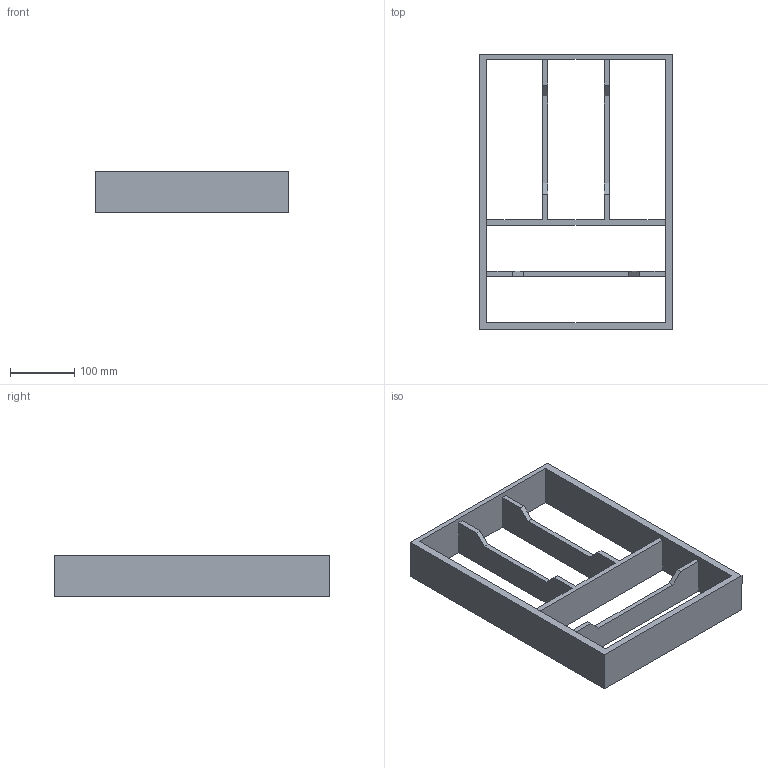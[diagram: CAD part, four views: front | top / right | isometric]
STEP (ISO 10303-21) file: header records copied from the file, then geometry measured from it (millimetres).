
FILE_DESCRIPTION (( 'STEP AP214' ), '1' );
FILE_NAME ('Vario Besteck fix NL450_B400_19mm_Buche.step', '2010-11-08T07:33:12', ( 'grass' ), ( '' ), 'SwSTEP 2.0', 'SolidWorks 2010', '' );
FILE_SCHEMA (( 'AUTOMOTIVE_DESIGN' ));
Length unit declared in the file: millimetre
Products named in the file (1): Vario Besteck fix NL450_B400_19mm_Buche
Bounding box: 302 x 429 x 65 mm (x, y, z)
Volume: 1427874 mm3; surface area: 333038 mm2
Topology: 1 solids, 1 shells, 34 faces, 108 edges, 72 vertices
Faces by surface type: plane 34
Entity records: 1226 total; most frequent: ORIENTED_EDGE 216, CARTESIAN_POINT 215, DIRECTION 178, VECTOR 108, LINE 108, EDGE_CURVE 108, VERTEX_POINT 72, EDGE_LOOP 40
